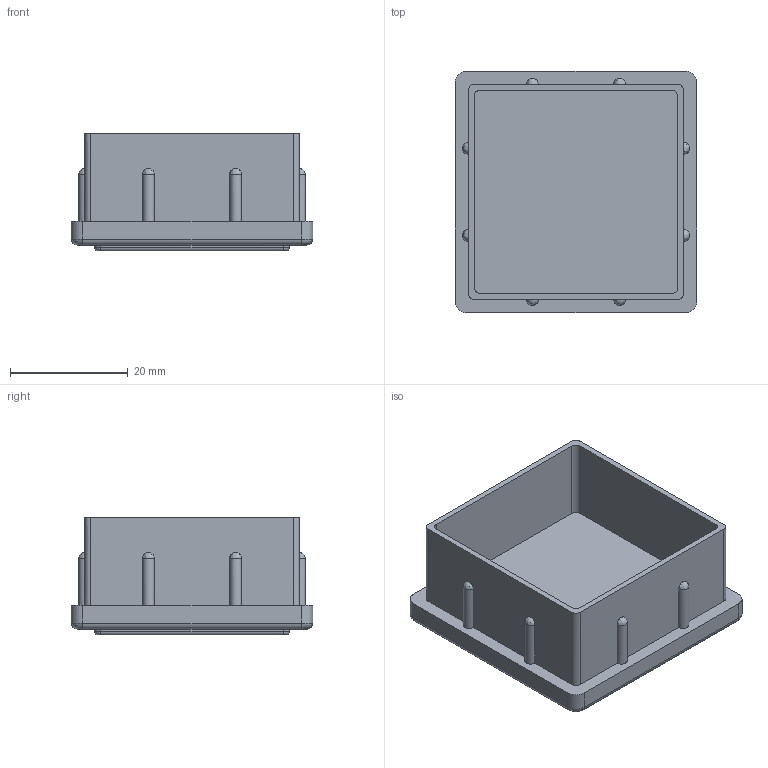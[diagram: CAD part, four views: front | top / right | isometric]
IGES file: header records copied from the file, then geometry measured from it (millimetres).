
Global section: file name: DR_PR4-4040; native system: Autodesk Inventor 2015; preprocessor: unknown; author: Administrator; date: 20170925.095246; units: millimetre
Bounding box: 41 x 41 x 20 mm (x, y, z)
Volume: 11187.5 mm3; surface area: 11119.7 mm2
Topology: 2 solids, 2 shells, 78 faces, 200 edges, 128 vertices
Faces by surface type: bspline 78
